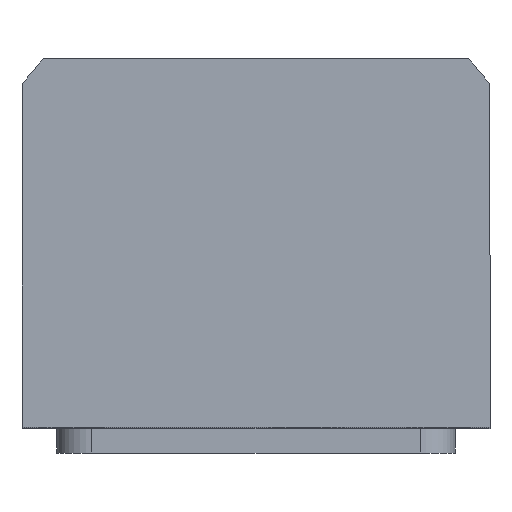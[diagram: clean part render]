
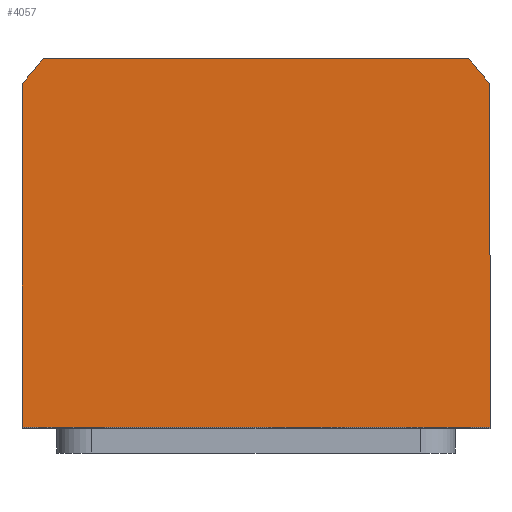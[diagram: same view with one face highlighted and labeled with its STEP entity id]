
A CAD part, top view. The second image highlights one B-rep face of the part: STEP entity #4057.
In plain terms, the highlighted planar face has unit normal (0, 0, 1).
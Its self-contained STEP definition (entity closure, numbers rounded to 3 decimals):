
#175 = EDGE_CURVE ( 'NONE', #11359, #1260, #1065, .T. ) ;
#1065 = LINE ( 'NONE', #7283, #9507 ) ;
#1260 = VERTEX_POINT ( 'NONE', #11092 ) ;
#1363 = DIRECTION ( 'NONE',  ( 0., 0., 1. ) ) ;
#1710 = ORIENTED_EDGE ( 'NONE', *, *, #175, .T. ) ;
#2074 = CIRCLE ( 'NONE', #2269, 58.5 ) ;
#2269 = AXIS2_PLACEMENT_3D ( 'NONE', #10733, #1363, #6035 ) ;
#2484 = DIRECTION ( 'NONE',  ( 0., 0., 1. ) ) ;
#2876 = VERTEX_POINT ( 'NONE', #13060 ) ;
#3382 = CARTESIAN_POINT ( 'NONE',  ( 0., 0., 75. ) ) ;
#3460 = CARTESIAN_POINT ( 'NONE',  ( -42.688, 40., 75. ) ) ;
#3632 = VECTOR ( 'NONE', #9203, 1000. ) ;
#4057 = ADVANCED_FACE ( 'NONE', ( #6513 ), #10245, .T. ) ;
#4241 = CARTESIAN_POINT ( 'NONE',  ( 47., 34.832, 75. ) ) ;
#4451 = VERTEX_POINT ( 'NONE', #4905 ) ;
#4771 = VECTOR ( 'NONE', #14518, 1000. ) ;
#4905 = CARTESIAN_POINT ( 'NONE',  ( 47., 34.832, 75. ) ) ;
#5137 = EDGE_CURVE ( 'NONE', #12292, #4451, #11423, .T. ) ;
#5684 = DIRECTION ( 'NONE',  ( 1., 0., 0. ) ) ;
#5919 = EDGE_CURVE ( 'NONE', #7505, #11359, #2074, .T. ) ;
#6035 = DIRECTION ( 'NONE',  ( 1., 0., 0. ) ) ;
#6366 = ORIENTED_EDGE ( 'NONE', *, *, #5919, .T. ) ;
#6513 = FACE_OUTER_BOUND ( 'NONE', #8143, .T. ) ;
#6665 = LINE ( 'NONE', #3460, #3632 ) ;
#7062 = ORIENTED_EDGE ( 'NONE', *, *, #13068, .T. ) ;
#7075 = DIRECTION ( 'NONE',  ( 0., -1., 0. ) ) ;
#7283 = CARTESIAN_POINT ( 'NONE',  ( -47., -34., 75. ) ) ;
#7505 = VERTEX_POINT ( 'NONE', #13842 ) ;
#8143 = EDGE_LOOP ( 'NONE', ( #11800, #14398, #10519, #7062, #6366, #1710 ) ) ;
#8305 = EDGE_CURVE ( 'NONE', #4451, #2876, #13644, .T. ) ;
#8491 = EDGE_CURVE ( 'NONE', #1260, #12292, #14008, .T. ) ;
#9203 = DIRECTION ( 'NONE',  ( -1., 0., 0. ) ) ;
#9212 = DIRECTION ( 'NONE',  ( 1., 0., 0. ) ) ;
#9350 = CARTESIAN_POINT ( 'NONE',  ( -47., 34.832, 75. ) ) ;
#9507 = VECTOR ( 'NONE', #7075, 1000. ) ;
#10193 = DIRECTION ( 'NONE',  ( 0., 0., 1. ) ) ;
#10245 = PLANE ( 'NONE',  #14871 ) ;
#10507 = CARTESIAN_POINT ( 'NONE',  ( 47., -34., 75. ) ) ;
#10519 = ORIENTED_EDGE ( 'NONE', *, *, #8305, .T. ) ;
#10733 = CARTESIAN_POINT ( 'NONE',  ( 0., 0., 75. ) ) ;
#10813 = DIRECTION ( 'NONE',  ( 1., 0., 0. ) ) ;
#11092 = CARTESIAN_POINT ( 'NONE',  ( -47., -34., 75. ) ) ;
#11359 = VERTEX_POINT ( 'NONE', #9350 ) ;
#11423 = LINE ( 'NONE', #4241, #4771 ) ;
#11576 = CARTESIAN_POINT ( 'NONE',  ( 0., 0., 75. ) ) ;
#11800 = ORIENTED_EDGE ( 'NONE', *, *, #8491, .T. ) ;
#12292 = VERTEX_POINT ( 'NONE', #10507 ) ;
#13032 = CARTESIAN_POINT ( 'NONE',  ( 47., -34., 75. ) ) ;
#13060 = CARTESIAN_POINT ( 'NONE',  ( 42.688, 40., 75. ) ) ;
#13068 = EDGE_CURVE ( 'NONE', #2876, #7505, #6665, .T. ) ;
#13170 = AXIS2_PLACEMENT_3D ( 'NONE', #11576, #2484, #9212 ) ;
#13644 = CIRCLE ( 'NONE', #13170, 58.5 ) ;
#13842 = CARTESIAN_POINT ( 'NONE',  ( -42.688, 40., 75. ) ) ;
#14008 = LINE ( 'NONE', #13032, #14894 ) ;
#14398 = ORIENTED_EDGE ( 'NONE', *, *, #5137, .T. ) ;
#14518 = DIRECTION ( 'NONE',  ( 0., 1., 0. ) ) ;
#14871 = AXIS2_PLACEMENT_3D ( 'NONE', #3382, #10193, #5684 ) ;
#14894 = VECTOR ( 'NONE', #10813, 1000. ) ;
